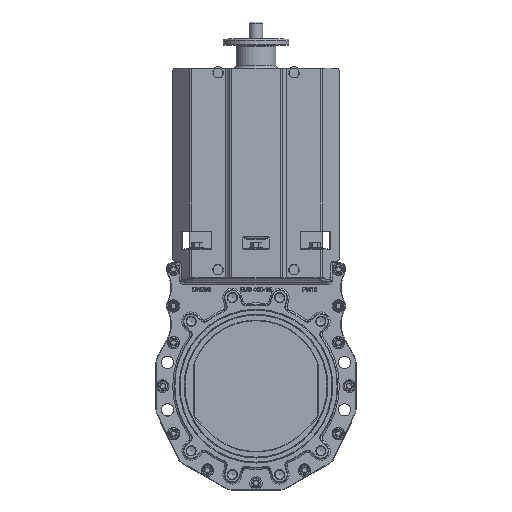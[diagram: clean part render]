
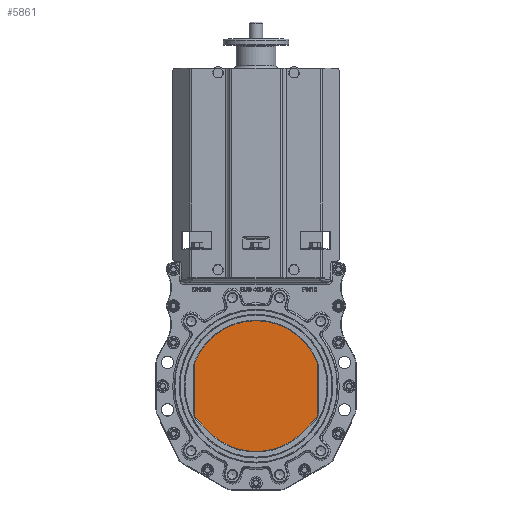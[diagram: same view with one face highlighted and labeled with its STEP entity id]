
A CAD part, top view. The second image highlights one B-rep face of the part: STEP entity #5861.
In plain terms, the highlighted planar face has unit normal (0, 0, 1).
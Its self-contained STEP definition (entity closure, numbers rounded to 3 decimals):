
#5861=ADVANCED_FACE('',(#9668),#8332,.T.);
#8332=PLANE('',#46823);
#9668=FACE_OUTER_BOUND('',#12120,.T.);
#12120=EDGE_LOOP('',(#19617,#19618,#19619,#19620,#19621,#19622,#19623,#19624,
#19625,#19626));
#15488=CIRCLE('',#46817,10.);
#15489=CIRCLE('',#46818,125.);
#15490=CIRCLE('',#46819,10.);
#15491=CIRCLE('',#46820,10.);
#15492=CIRCLE('',#46821,125.);
#15493=CIRCLE('',#46822,10.);
#19617=ORIENTED_EDGE('',*,*,#35290,.F.);
#19618=ORIENTED_EDGE('',*,*,#35291,.F.);
#19619=ORIENTED_EDGE('',*,*,#35292,.F.);
#19620=ORIENTED_EDGE('',*,*,#35293,.F.);
#19621=ORIENTED_EDGE('',*,*,#35294,.F.);
#19622=ORIENTED_EDGE('',*,*,#35295,.F.);
#19623=ORIENTED_EDGE('',*,*,#35296,.F.);
#19624=ORIENTED_EDGE('',*,*,#35297,.F.);
#19625=ORIENTED_EDGE('',*,*,#35298,.F.);
#19626=ORIENTED_EDGE('',*,*,#35299,.F.);
#30651=VERTEX_POINT('',#67436);
#30652=VERTEX_POINT('',#67437);
#30653=VERTEX_POINT('',#67439);
#30654=VERTEX_POINT('',#67441);
#30655=VERTEX_POINT('',#67443);
#30656=VERTEX_POINT('',#67445);
#30657=VERTEX_POINT('',#67447);
#30658=VERTEX_POINT('',#67449);
#30659=VERTEX_POINT('',#67451);
#30660=VERTEX_POINT('',#67453);
#35290=EDGE_CURVE('',#30651,#30652,#15488,.T.);
#35291=EDGE_CURVE('',#30653,#30651,#15489,.T.);
#35292=EDGE_CURVE('',#30654,#30653,#15490,.T.);
#35293=EDGE_CURVE('',#30655,#30654,#40831,.T.);
#35294=EDGE_CURVE('',#30656,#30655,#15491,.T.);
#35295=EDGE_CURVE('',#30657,#30656,#40832,.T.);
#35296=EDGE_CURVE('',#30658,#30657,#15492,.T.);
#35297=EDGE_CURVE('',#30659,#30658,#40833,.T.);
#35298=EDGE_CURVE('',#30660,#30659,#15493,.T.);
#35299=EDGE_CURVE('',#30652,#30660,#40834,.T.);
#40831=LINE('',#67442,#43525);
#40832=LINE('',#67446,#43526);
#40833=LINE('',#67450,#43527);
#40834=LINE('',#67454,#43528);
#43525=VECTOR('',#52955,1.);
#43526=VECTOR('',#52958,1.);
#43527=VECTOR('',#52961,1.);
#43528=VECTOR('',#52964,1.);
#46817=AXIS2_PLACEMENT_3D('',#67435,#52949,#52950);
#46818=AXIS2_PLACEMENT_3D('',#67438,#52951,#52952);
#46819=AXIS2_PLACEMENT_3D('',#67440,#52953,#52954);
#46820=AXIS2_PLACEMENT_3D('',#67444,#52956,#52957);
#46821=AXIS2_PLACEMENT_3D('',#67448,#52959,#52960);
#46822=AXIS2_PLACEMENT_3D('',#67452,#52962,#52963);
#46823=AXIS2_PLACEMENT_3D('',#67455,#52965,#52966);
#52949=DIRECTION('',(0.,0.,-1.));
#52950=DIRECTION('',(1.,0.,0.));
#52951=DIRECTION('',(0.,0.,-1.));
#52952=DIRECTION('',(1.,0.,0.));
#52953=DIRECTION('',(0.,0.,-1.));
#52954=DIRECTION('',(1.,0.,0.));
#52955=DIRECTION('',(0.,1.,0.));
#52956=DIRECTION('',(0.,0.,-1.));
#52957=DIRECTION('',(1.,0.,0.));
#52958=DIRECTION('',(-0.707,0.707,0.));
#52959=DIRECTION('',(0.,0.,-1.));
#52960=DIRECTION('',(1.,0.,0.));
#52961=DIRECTION('',(-0.707,-0.707,0.));
#52962=DIRECTION('',(0.,0.,-1.));
#52963=DIRECTION('',(1.,0.,0.));
#52964=DIRECTION('',(0.,-1.,0.));
#52965=DIRECTION('',(0.,0.,1.));
#52966=DIRECTION('',(1.,0.,0.));
#67435=CARTESIAN_POINT('',(107.5,40.85,5.));
#67436=CARTESIAN_POINT('',(116.848,44.403,5.));
#67437=CARTESIAN_POINT('',(117.5,40.85,5.));
#67438=CARTESIAN_POINT('',(0.,0.,5.));
#67439=CARTESIAN_POINT('',(-116.848,44.403,5.));
#67440=CARTESIAN_POINT('',(-107.5,40.85,5.));
#67441=CARTESIAN_POINT('',(-117.5,40.85,5.));
#67442=CARTESIAN_POINT('',(-117.5,42.647,5.));
#67443=CARTESIAN_POINT('',(-117.5,-55.135,5.));
#67444=CARTESIAN_POINT('',(-107.5,-55.135,5.));
#67445=CARTESIAN_POINT('',(-114.571,-62.206,5.));
#67446=CARTESIAN_POINT('',(-117.5,-59.277,5.));
#67447=CARTESIAN_POINT('',(-88.388,-88.388,5.));
#67448=CARTESIAN_POINT('',(0.,0.,5.));
#67449=CARTESIAN_POINT('',(88.388,-88.388,5.));
#67450=CARTESIAN_POINT('',(88.388,-88.388,5.));
#67451=CARTESIAN_POINT('',(114.571,-62.206,5.));
#67452=CARTESIAN_POINT('',(107.5,-55.135,5.));
#67453=CARTESIAN_POINT('',(117.5,-55.135,5.));
#67454=CARTESIAN_POINT('',(117.5,-59.277,5.));
#67455=CARTESIAN_POINT('',(0.,118.483,5.));
